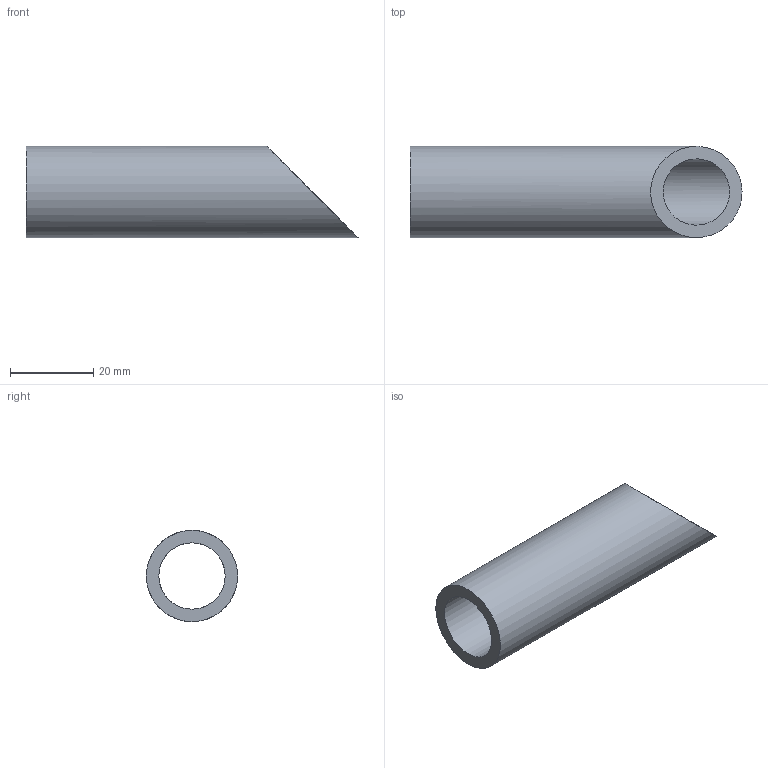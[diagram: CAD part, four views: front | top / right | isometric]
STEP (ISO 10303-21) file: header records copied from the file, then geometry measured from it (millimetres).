
FILE_DESCRIPTION(/* description */ (''),/* implementation_level */ '2;1');
FILE_NAME(/* name */ 'Pos104-Precisie buis 22x3-Aluminium-12st',/* time_stamp */ '2024-08-06T11:49:44+02:00',/* author */ (''),/* organization */ (''),/* preprocessor_version */ 'ST-DEVELOPER v16.5',/* originating_system */ 'HiCAD 2024 2901.2 Build 361',/* authorisation */ '');
FILE_SCHEMA (('AUTOMOTIVE_DESIGN { 1 0 10303 214 1 1 1 1 }'));
Length unit declared in the file: millimetre
Products named in the file (1): Pos104-Precisie buis 22x3-Aluminium-12st
Bounding box: 80 x 22 x 22 mm (x, y, z)
Volume: 12355.9 mm3; surface area: 8669.6 mm2
Topology: 1 solids, 1 shells, 4 faces, 6 edges, 4 vertices
Faces by surface type: cylinder 2, plane 2
Full cylindrical faces by diameter (mm): 16 x1, 22 x1
Entity records: 146 total; most frequent: DIRECTION 16, CARTESIAN_POINT 12, PRESENTATION_STYLE_ASSIGNMENT 9, COLOUR_RGB 9, DRAUGHTING_PRE_DEFINED_CURVE_FONT 8, CURVE_STYLE 8, OVER_RIDING_STYLED_ITEM 8, ORIENTED_EDGE 8
